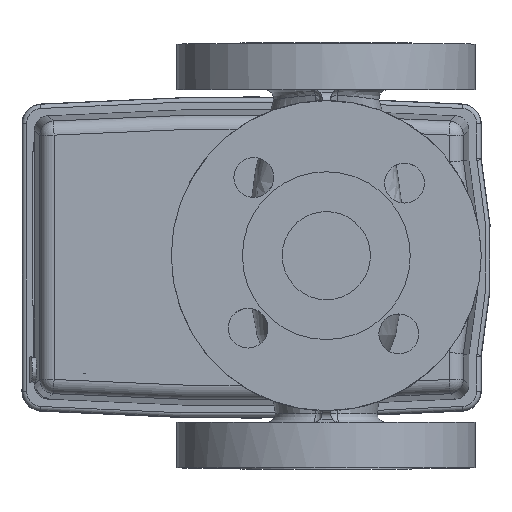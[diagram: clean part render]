
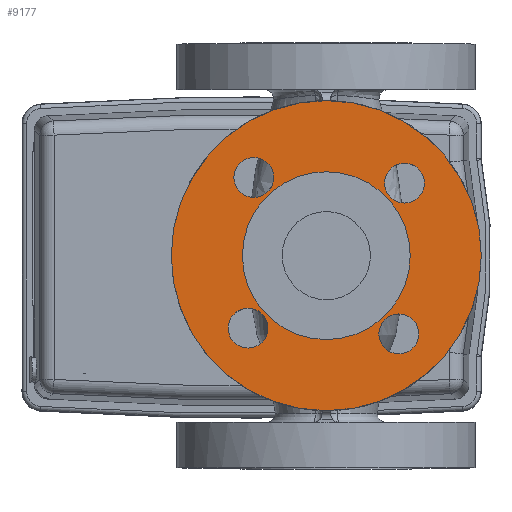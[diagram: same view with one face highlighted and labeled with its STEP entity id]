
A CAD part, top view. The second image highlights one B-rep face of the part: STEP entity #9177.
In plain terms, the highlighted planar face has unit normal (0, 0, 1).
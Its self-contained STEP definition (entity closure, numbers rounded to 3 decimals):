
#2631=ORIENTED_EDGE('',*,*,#3757,.F.);
#2632=ORIENTED_EDGE('',*,*,#3758,.F.);
#2633=ORIENTED_EDGE('',*,*,#3759,.F.);
#2634=ORIENTED_EDGE('',*,*,#3760,.F.);
#2635=ORIENTED_EDGE('',*,*,#3716,.F.);
#2636=ORIENTED_EDGE('',*,*,#3761,.T.);
#3716=EDGE_CURVE('',#4396,#4396,#4810,.T.);
#3757=EDGE_CURVE('',#4426,#4426,#4829,.T.);
#3758=EDGE_CURVE('',#4427,#4427,#4830,.T.);
#3759=EDGE_CURVE('',#4428,#4428,#4831,.T.);
#3760=EDGE_CURVE('',#4429,#4429,#4832,.T.);
#3761=EDGE_CURVE('',#4430,#4430,#4833,.T.);
#4396=VERTEX_POINT('',#14461);
#4426=VERTEX_POINT('',#14649);
#4427=VERTEX_POINT('',#14651);
#4428=VERTEX_POINT('',#14653);
#4429=VERTEX_POINT('',#14655);
#4430=VERTEX_POINT('',#14657);
#4810=CIRCLE('',#9856,29.5);
#4829=CIRCLE('',#9892,7.);
#4830=CIRCLE('',#9893,7.);
#4831=CIRCLE('',#9894,7.);
#4832=CIRCLE('',#9895,7.);
#4833=CIRCLE('',#9896,54.5);
#5298=EDGE_LOOP('',(#2631));
#5299=EDGE_LOOP('',(#2632));
#5300=EDGE_LOOP('',(#2633));
#5301=EDGE_LOOP('',(#2634));
#5302=EDGE_LOOP('',(#2635));
#5303=EDGE_LOOP('',(#2636));
#5807=FACE_BOUND('',#5298,.T.);
#5808=FACE_BOUND('',#5299,.T.);
#5809=FACE_BOUND('',#5300,.T.);
#5810=FACE_BOUND('',#5301,.T.);
#5811=FACE_BOUND('',#5302,.T.);
#5812=FACE_BOUND('',#5303,.T.);
#6064=PLANE('',#9891);
#9177=ADVANCED_FACE('',(#5807,#5808,#5809,#5810,#5811,#5812),#6064,.T.);
#9856=AXIS2_PLACEMENT_3D('',#14460,#11542,#11543);
#9891=AXIS2_PLACEMENT_3D('',#14647,#11627,#11628);
#9892=AXIS2_PLACEMENT_3D('',#14648,#11629,#11630);
#9893=AXIS2_PLACEMENT_3D('',#14650,#11631,#11632);
#9894=AXIS2_PLACEMENT_3D('',#14652,#11633,#11634);
#9895=AXIS2_PLACEMENT_3D('',#14654,#11635,#11636);
#9896=AXIS2_PLACEMENT_3D('',#14656,#11637,#11638);
#11542=DIRECTION('',(0.,0.,1.));
#11543=DIRECTION('',(-1.,0.,0.));
#11627=DIRECTION('',(0.,0.,1.));
#11628=DIRECTION('',(-1.,0.,0.));
#11629=DIRECTION('',(0.,0.,1.));
#11630=DIRECTION('',(-1.,0.,0.));
#11631=DIRECTION('',(0.,0.,1.));
#11632=DIRECTION('',(-1.,0.,0.));
#11633=DIRECTION('',(0.,0.,1.));
#11634=DIRECTION('',(-1.,0.,0.));
#11635=DIRECTION('',(0.,0.,1.));
#11636=DIRECTION('',(-1.,0.,0.));
#11637=DIRECTION('',(0.,0.,1.));
#11638=DIRECTION('',(-1.,0.,0.));
#14460=CARTESIAN_POINT('',(0.755,0.055,275.5));
#14461=CARTESIAN_POINT('',(-28.745,0.055,275.5));
#14647=CARTESIAN_POINT('',(-0.471,43.937,275.5));
#14648=CARTESIAN_POINT('',(-24.734,27.56,275.5));
#14649=CARTESIAN_POINT('',(-31.734,27.56,275.5));
#14650=CARTESIAN_POINT('',(-26.75,-25.435,275.5));
#14651=CARTESIAN_POINT('',(-33.75,-25.435,275.5));
#14652=CARTESIAN_POINT('',(26.245,-27.45,275.5));
#14653=CARTESIAN_POINT('',(19.245,-27.45,275.5));
#14654=CARTESIAN_POINT('',(28.261,25.544,275.5));
#14655=CARTESIAN_POINT('',(21.261,25.544,275.5));
#14656=CARTESIAN_POINT('',(0.755,0.055,275.5));
#14657=CARTESIAN_POINT('',(-53.745,0.055,275.5));
